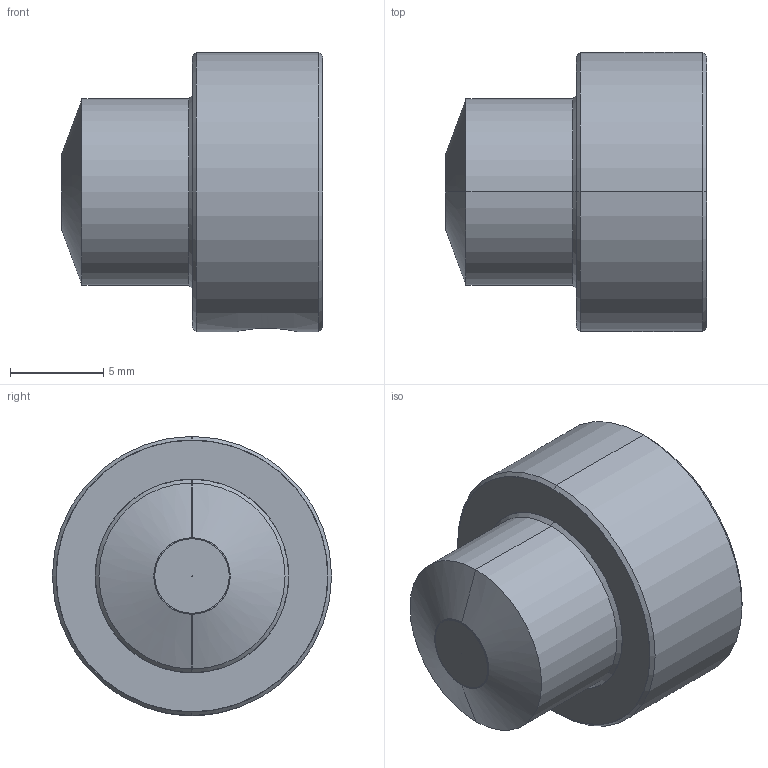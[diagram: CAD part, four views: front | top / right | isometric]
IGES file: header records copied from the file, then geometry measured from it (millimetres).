
Start section: SolidWorks IGES FILE using analytic representation for surfaces
Global section: file name: E:\MOJIDOK2006\projekti2006\3D-RE-RM-izdelki\RMA-shaft8mm.IGS; native system: SolidWorks 99 by SolidWorks Corporation; preprocessor: Version 3.0; author: cerar; date: 1060905.151747; units: millimetre
Bounding box: 14.03 x 15 x 15 mm (x, y, z)
Surface area: 1039.7 mm2 (no closed solid volume)
Topology: 0 solids, 0 shells, 57 faces, 646 edges, 646 vertices
Faces by surface type: bspline 29, revolution 28
